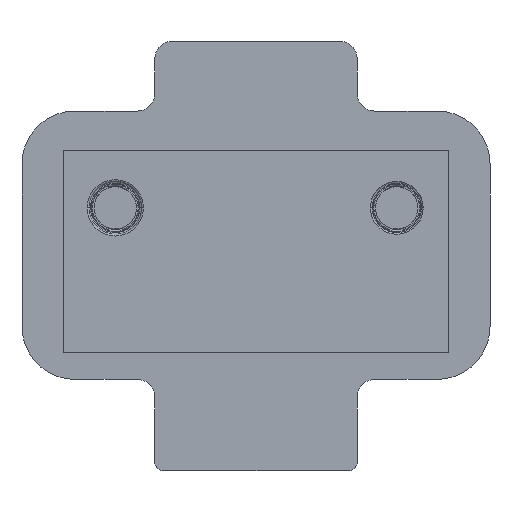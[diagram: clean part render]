
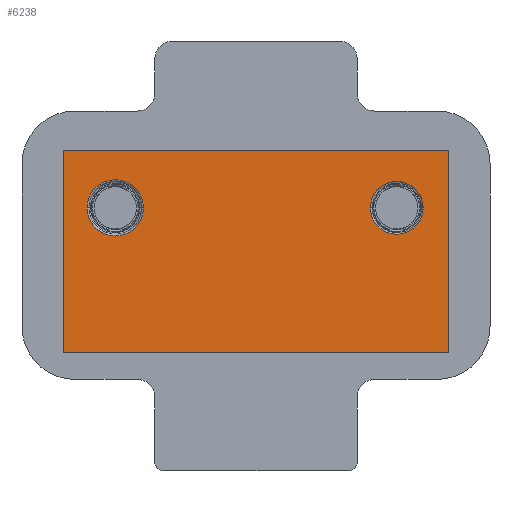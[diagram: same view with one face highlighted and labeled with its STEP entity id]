
A CAD part, front view. The second image highlights one B-rep face of the part: STEP entity #6238.
In plain terms, the highlighted planar face has unit normal (0, -1, 0).
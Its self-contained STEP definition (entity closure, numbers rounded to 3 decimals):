
#528 = EDGE_LOOP ( 'NONE', ( #16114, #18200 ) ) ;
#618 = VECTOR ( 'NONE', #4985, 1000. ) ;
#820 = CARTESIAN_POINT ( 'NONE',  ( 64.259, 39.318, -24.373 ) ) ;
#1456 = PLANE ( 'NONE',  #9889 ) ;
#1569 = CIRCLE ( 'NONE', #17875, 3. ) ;
#1828 = FACE_OUTER_BOUND ( 'NONE', #14364, .T. ) ;
#2915 = VECTOR ( 'NONE', #8873, 1000. ) ;
#3164 = DIRECTION ( 'NONE',  ( 0., -1., 0. ) ) ;
#3645 = DIRECTION ( 'NONE',  ( 0., 0., 1. ) ) ;
#4008 = CARTESIAN_POINT ( 'NONE',  ( 54.759, 39.318, -7.875 ) ) ;
#4537 = EDGE_CURVE ( 'NONE', #5600, #13081, #8017, .T. ) ;
#4761 = CIRCLE ( 'NONE', #6275, 3. ) ;
#4985 = DIRECTION ( 'NONE',  ( -1., 0., 0. ) ) ;
#5053 = LINE ( 'NONE', #10638, #16611 ) ;
#5132 = ORIENTED_EDGE ( 'NONE', *, *, #7461, .F. ) ;
#5600 = VERTEX_POINT ( 'NONE', #18064 ) ;
#5775 = EDGE_CURVE ( 'NONE', #5600, #16562, #7085, .T. ) ;
#5801 = EDGE_CURVE ( 'NONE', #16537, #16562, #8595, .T. ) ;
#6184 = EDGE_LOOP ( 'NONE', ( #18560, #14966 ) ) ;
#6238 = ADVANCED_FACE ( 'NONE', ( #1828, #7599, #10151 ), #1456, .F. ) ;
#6265 = EDGE_CURVE ( 'NONE', #16842, #10013, #4761, .T. ) ;
#6275 = AXIS2_PLACEMENT_3D ( 'NONE', #16113, #3164, #10248 ) ;
#6294 = DIRECTION ( 'NONE',  ( -1., 0., 0. ) ) ;
#6456 = ORIENTED_EDGE ( 'NONE', *, *, #5801, .F. ) ;
#6715 = DIRECTION ( 'NONE',  ( 0., 1., 0. ) ) ;
#6778 = VERTEX_POINT ( 'NONE', #13431 ) ;
#7085 = LINE ( 'NONE', #12760, #2915 ) ;
#7461 = EDGE_CURVE ( 'NONE', #13081, #16537, #5053, .T. ) ;
#7599 = FACE_BOUND ( 'NONE', #528, .T. ) ;
#7708 = CARTESIAN_POINT ( 'NONE',  ( 25.759, 39.318, -7.875 ) ) ;
#8017 = LINE ( 'NONE', #820, #618 ) ;
#8454 = DIRECTION ( 'NONE',  ( 1., 0., 0. ) ) ;
#8595 = LINE ( 'NONE', #18531, #9252 ) ;
#8643 = CARTESIAN_POINT ( 'NONE',  ( 26.313, 39.318, -8.108 ) ) ;
#8873 = DIRECTION ( 'NONE',  ( 0., 0., 1. ) ) ;
#9115 = ORIENTED_EDGE ( 'NONE', *, *, #4537, .F. ) ;
#9252 = VECTOR ( 'NONE', #17207, 1000. ) ;
#9889 = AXIS2_PLACEMENT_3D ( 'NONE', #8643, #15566, #13363 ) ;
#9935 = CARTESIAN_POINT ( 'NONE',  ( 25.759, 39.318, -7.875 ) ) ;
#10013 = VERTEX_POINT ( 'NONE', #4008 ) ;
#10151 = FACE_BOUND ( 'NONE', #6184, .T. ) ;
#10248 = DIRECTION ( 'NONE',  ( 1., 0., 0. ) ) ;
#10638 = CARTESIAN_POINT ( 'NONE',  ( 19.859, 39.318, -22.303 ) ) ;
#10708 = CARTESIAN_POINT ( 'NONE',  ( 19.859, 39.318, -24.373 ) ) ;
#11684 = EDGE_CURVE ( 'NONE', #10013, #16842, #1569, .T. ) ;
#11926 = CIRCLE ( 'NONE', #13128, 3.2 ) ;
#12484 = DIRECTION ( 'NONE',  ( -1., 0., 0. ) ) ;
#12760 = CARTESIAN_POINT ( 'NONE',  ( 63.659, 39.318, 9.397 ) ) ;
#12772 = CARTESIAN_POINT ( 'NONE',  ( 28.959, 39.318, -7.875 ) ) ;
#12851 = CIRCLE ( 'NONE', #16172, 3.2 ) ;
#13081 = VERTEX_POINT ( 'NONE', #10708 ) ;
#13128 = AXIS2_PLACEMENT_3D ( 'NONE', #9935, #6715, #12484 ) ;
#13363 = DIRECTION ( 'NONE',  ( -1., 0., 0. ) ) ;
#13431 = CARTESIAN_POINT ( 'NONE',  ( 22.559, 39.318, -7.875 ) ) ;
#13472 = DIRECTION ( 'NONE',  ( 0., 1., 0. ) ) ;
#14364 = EDGE_LOOP ( 'NONE', ( #6456, #5132, #9115, #18698 ) ) ;
#14966 = ORIENTED_EDGE ( 'NONE', *, *, #11684, .F. ) ;
#15512 = CARTESIAN_POINT ( 'NONE',  ( 60.759, 39.318, -7.875 ) ) ;
#15566 = DIRECTION ( 'NONE',  ( 0., 1., 0. ) ) ;
#15644 = DIRECTION ( 'NONE',  ( 0., -1., 0. ) ) ;
#15812 = CARTESIAN_POINT ( 'NONE',  ( 63.659, 39.318, -1.38 ) ) ;
#16113 = CARTESIAN_POINT ( 'NONE',  ( 57.759, 39.318, -7.875 ) ) ;
#16114 = ORIENTED_EDGE ( 'NONE', *, *, #17413, .T. ) ;
#16172 = AXIS2_PLACEMENT_3D ( 'NONE', #7708, #13472, #6294 ) ;
#16537 = VERTEX_POINT ( 'NONE', #17336 ) ;
#16562 = VERTEX_POINT ( 'NONE', #15812 ) ;
#16611 = VECTOR ( 'NONE', #3645, 1000. ) ;
#16840 = VERTEX_POINT ( 'NONE', #12772 ) ;
#16842 = VERTEX_POINT ( 'NONE', #15512 ) ;
#16893 = EDGE_CURVE ( 'NONE', #16840, #6778, #11926, .T. ) ;
#16969 = CARTESIAN_POINT ( 'NONE',  ( 57.759, 39.318, -7.875 ) ) ;
#17207 = DIRECTION ( 'NONE',  ( 1., 0., 0. ) ) ;
#17336 = CARTESIAN_POINT ( 'NONE',  ( 19.859, 39.318, -1.38 ) ) ;
#17413 = EDGE_CURVE ( 'NONE', #6778, #16840, #12851, .T. ) ;
#17875 = AXIS2_PLACEMENT_3D ( 'NONE', #16969, #15644, #8454 ) ;
#18064 = CARTESIAN_POINT ( 'NONE',  ( 63.659, 39.318, -24.373 ) ) ;
#18200 = ORIENTED_EDGE ( 'NONE', *, *, #16893, .T. ) ;
#18531 = CARTESIAN_POINT ( 'NONE',  ( 19.859, 39.318, -1.38 ) ) ;
#18560 = ORIENTED_EDGE ( 'NONE', *, *, #6265, .F. ) ;
#18698 = ORIENTED_EDGE ( 'NONE', *, *, #5775, .T. ) ;
